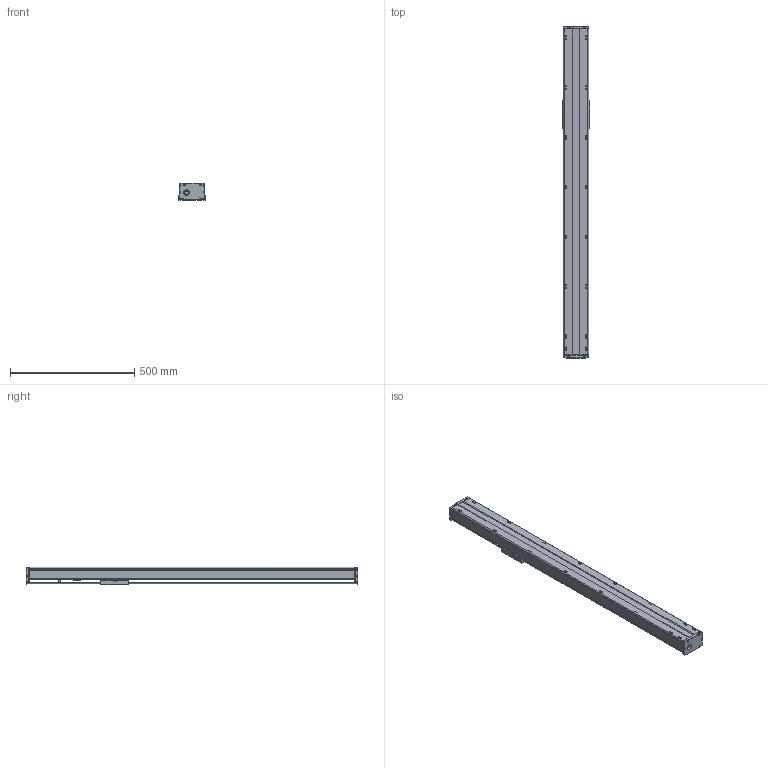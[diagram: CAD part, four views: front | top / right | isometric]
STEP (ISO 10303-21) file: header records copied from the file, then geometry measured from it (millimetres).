
FILE_DESCRIPTION(/* description */ (''),/* implementation_level */ '2;1');
FILE_NAME(/* name */ 'TKA100-950A1FI_asm1.stp',/* time_stamp */ '2017-02-21T09:02:51+08:00',/* author */ (''),/* organization */ (''),/* preprocessor_version */ 'ST-DEVELOPER v15',/* originating_system */ 'SIEMENS PLM Software NX 8.5',/* authorisation */ '');
FILE_SCHEMA (('AUTOMOTIVE_DESIGN { 1 0 10303 214 3 1 1 1 }'));
Length unit declared in the file: millimetre
Products named in the file (3): 200-02; 200-01; TKA100-950A1FI_asm1_stp
Assembly tree (2 placements, depth 2):
  TKA100-950A1FI_asm1_stp
    200-01
    200-02
Bounding box: 110 x 1334 x 71 mm (x, y, z)
Volume: 2711389.9 mm3; surface area: 887008.5 mm2
Topology: 2 solids, 9 shells, 879 faces, 2280 edges, 1447 vertices
Faces by surface type: plane 363, cylinder 303, cone 153, torus 34, bspline 26
Full cylindrical faces by diameter (mm): 2.5 x4, 2.6 x8, 3.3 x8, 3.4 x4, 3.8 x4, 4.2 x25, 4.3 x4, 4.5 x4, 5 x1, 5.5 x28, 6.6 x4, 8 x5, 9 x4, 10 x16, 11 x4, 12 x7, 15.3 x1, 16 x1, 22 x1, 24 x1, 28 x5, 30 x1
Entity records: 31114 total; most frequent: CARTESIAN_POINT 10700, DIRECTION 4242, ORIENTED_EDGE 3938, EDGE_CURVE 1969, AXIS2_PLACEMENT_3D 1648, VERTEX_POINT 1364, EDGE_LOOP 1197, LINE 946
